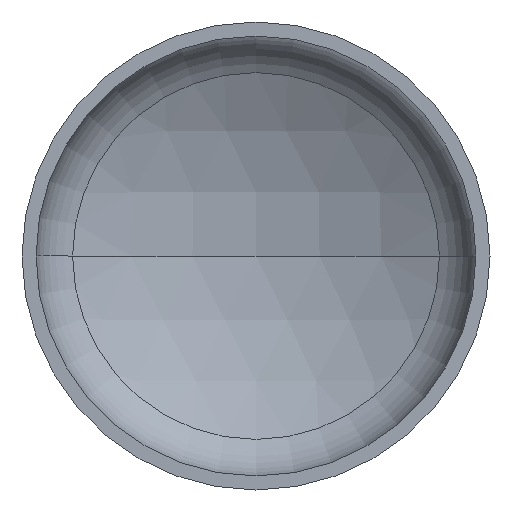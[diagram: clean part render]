
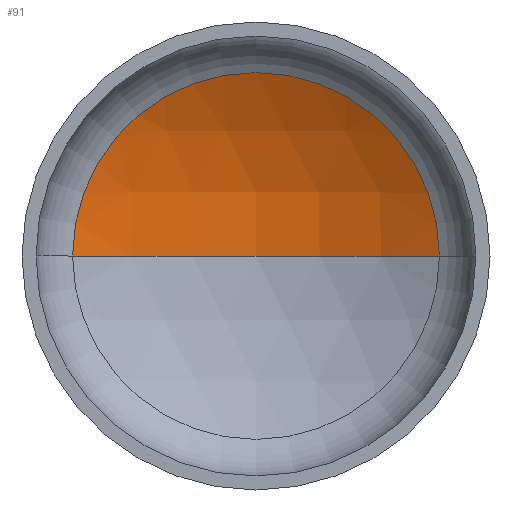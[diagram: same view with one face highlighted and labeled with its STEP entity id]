
A CAD part, front view. The second image highlights one B-rep face of the part: STEP entity #91.
In plain terms, the highlighted spherical face has radius 2560 mm.
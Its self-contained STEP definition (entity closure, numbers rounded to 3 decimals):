
#1 = VERTEX_POINT ( 'NONE', #251 ) ;
#9 = AXIS2_PLACEMENT_3D ( 'NONE', #328, #376, #183 ) ;
#10 = AXIS2_PLACEMENT_3D ( 'NONE', #372, #181, #185 ) ;
#13 = AXIS2_PLACEMENT_3D ( 'NONE', #378, #233, #399 ) ;
#22 = EDGE_LOOP ( 'NONE', ( #100, #41, #106 ) ) ;
#41 = ORIENTED_EDGE ( 'NONE', *, *, #334, .T. ) ;
#45 = AXIS2_PLACEMENT_3D ( 'NONE', #225, #291, #214 ) ;
#58 = VERTEX_POINT ( 'NONE', #258 ) ;
#91 = ADVANCED_FACE ( 'NONE', ( #289 ), #167, .F. ) ;
#100 = ORIENTED_EDGE ( 'NONE', *, *, #338, .F. ) ;
#105 = CIRCLE ( 'NONE', #9, 1254.029 ) ;
#106 = ORIENTED_EDGE ( 'NONE', *, *, #346, .T. ) ;
#107 = VERTEX_POINT ( 'NONE', #212 ) ;
#167 = SPHERICAL_SURFACE ( 'NONE', #45, 2560. ) ;
#181 = DIRECTION ( 'NONE',  ( 0., 0., 1. ) ) ;
#183 = DIRECTION ( 'NONE',  ( 1., 0., 0. ) ) ;
#185 = DIRECTION ( 'NONE',  ( 1., 0., 0. ) ) ;
#212 = CARTESIAN_POINT ( 'NONE',  ( -1254.029, 527.184, 0. ) ) ;
#214 = DIRECTION ( 'NONE',  ( -1., 0., 0. ) ) ;
#225 = CARTESIAN_POINT ( 'NONE',  ( 0., -1704.634, 0. ) ) ;
#233 = DIRECTION ( 'NONE',  ( 0., 0., -1. ) ) ;
#251 = CARTESIAN_POINT ( 'NONE',  ( 0., 855.366, 0. ) ) ;
#258 = CARTESIAN_POINT ( 'NONE',  ( 1254.029, 527.184, 0. ) ) ;
#260 = CIRCLE ( 'NONE', #10, 2560. ) ;
#289 = FACE_OUTER_BOUND ( 'NONE', #22, .T. ) ;
#291 = DIRECTION ( 'NONE',  ( 0., 0., -1. ) ) ;
#328 = CARTESIAN_POINT ( 'NONE',  ( 0., 527.184, 0. ) ) ;
#334 = EDGE_CURVE ( 'NONE', #1, #58, #384, .T. ) ;
#338 = EDGE_CURVE ( 'NONE', #1, #107, #260, .T. ) ;
#346 = EDGE_CURVE ( 'NONE', #58, #107, #105, .T. ) ;
#372 = CARTESIAN_POINT ( 'NONE',  ( 0., -1704.634, 0. ) ) ;
#376 = DIRECTION ( 'NONE',  ( 0., -1., 0. ) ) ;
#378 = CARTESIAN_POINT ( 'NONE',  ( 0., -1704.634, 0. ) ) ;
#384 = CIRCLE ( 'NONE', #13, 2560. ) ;
#399 = DIRECTION ( 'NONE',  ( -1., 0., 0. ) ) ;
